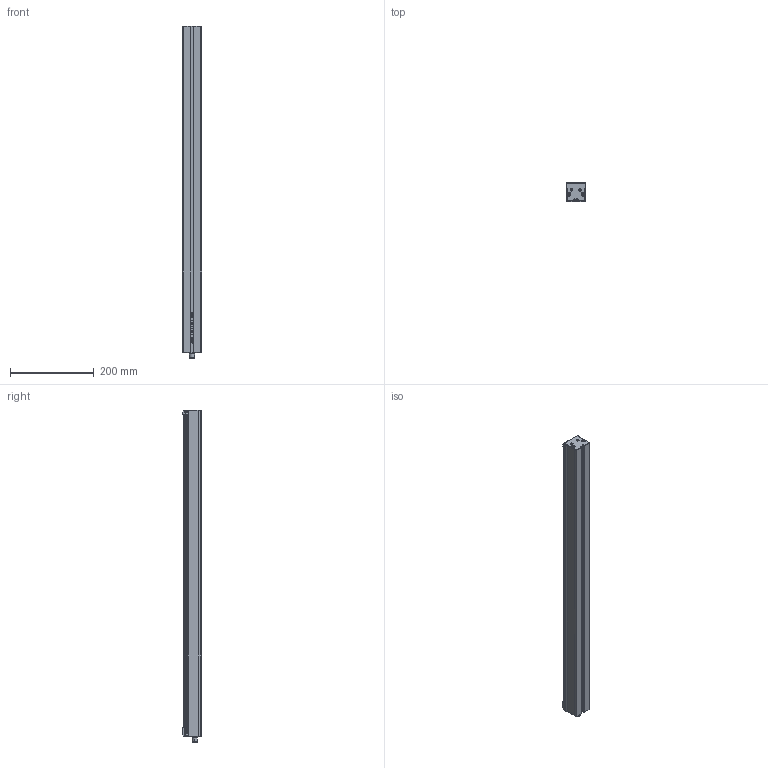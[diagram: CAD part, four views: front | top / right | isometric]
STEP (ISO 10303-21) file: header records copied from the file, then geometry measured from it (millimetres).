
FILE_DESCRIPTION (( 'STEP AP214' ), '1' );
FILE_NAME ('EBAR-EC-750-xxx-xx_CLIENT.STEP', '2026-06-04T10:49:58', ( '' ), ( '' ), 'SwSTEP 2.0', 'SolidWorks 2025', '' );
FILE_SCHEMA (( 'AUTOMOTIVE_DESIGN' ));
Length unit declared in the file: millimetre
Products named in the file (3): EBAR-EC-xxx-xxx-xx_CLIENT_750; EBAR-EC-750-xxx-xx_CLIENT; 1-X2014-01-3-A
Assembly tree (5 placements, depth 2):
  EBAR-EC-750-xxx-xx_CLIENT
    EBAR-EC-xxx-xxx-xx_CLIENT_750
    1-X2014-01-3-A  x4
Bounding box: 47.63 x 45 x 795.06 mm (x, y, z)
Volume: 1384380.7 mm3; surface area: 168983.5 mm2
Topology: 5 solids, 5 shells, 785 faces, 2005 edges, 1288 vertices
Faces by surface type: plane 341, cylinder 227, bspline 131, torus 62, cone 20, sphere 4
Entity records: 26495 total; most frequent: CARTESIAN_POINT 9555, ORIENTED_EDGE 3600, DIRECTION 3087, EDGE_CURVE 1800, VERTEX_POINT 1163, AXIS2_PLACEMENT_3D 1067, LINE 953, VECTOR 953
